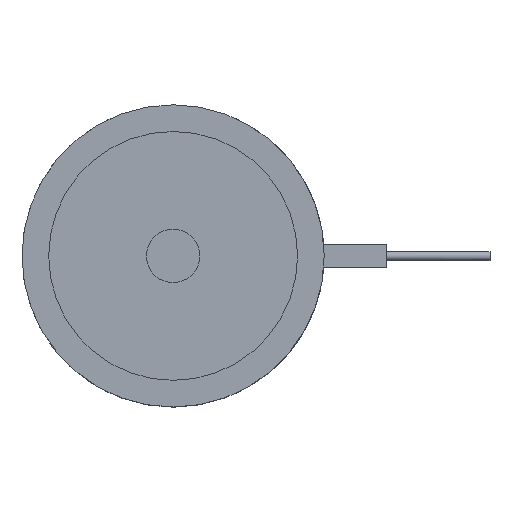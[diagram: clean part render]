
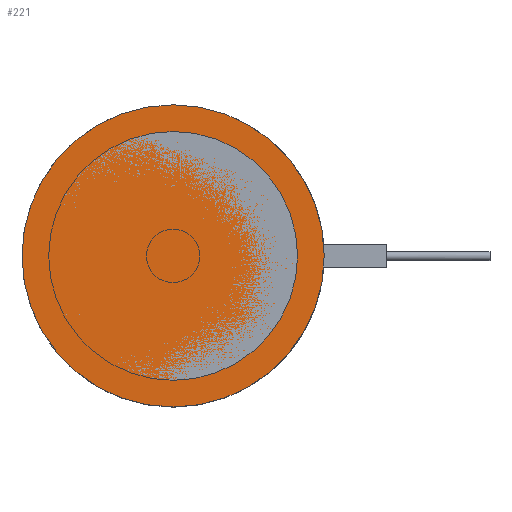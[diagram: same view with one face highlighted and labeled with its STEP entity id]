
A CAD part, top view. The second image highlights one B-rep face of the part: STEP entity #221.
In plain terms, the highlighted planar face has unit normal (0, 0, 1).
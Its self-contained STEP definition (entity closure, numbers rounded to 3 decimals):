
#221=ADVANCED_FACE('',(#310),#282,.F.);
#282=PLANE('',#961);
#310=FACE_OUTER_BOUND('',#411,.T.);
#411=EDGE_LOOP('',(#509));
#509=ORIENTED_EDGE('',*,*,#797,.F.);
#717=VERTEX_POINT('',#1357);
#797=EDGE_CURVE('',#717,#717,#901,.T.);
#901=CIRCLE('',#960,17.);
#960=AXIS2_PLACEMENT_3D('',#1356,#1085,#1086);
#961=AXIS2_PLACEMENT_3D('',#1358,#1087,#1088);
#1085=DIRECTION('',(0.,0.,-1.));
#1086=DIRECTION('',(-1.,0.,0.));
#1087=DIRECTION('',(0.,0.,-1.));
#1088=DIRECTION('',(-1.,0.,0.));
#1356=CARTESIAN_POINT('',(0.,0.,0.));
#1357=CARTESIAN_POINT('',(-17.,0.,0.));
#1358=CARTESIAN_POINT('',(0.,0.,0.));
